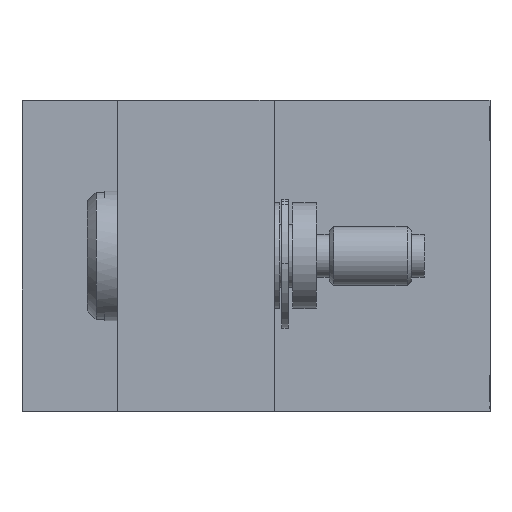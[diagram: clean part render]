
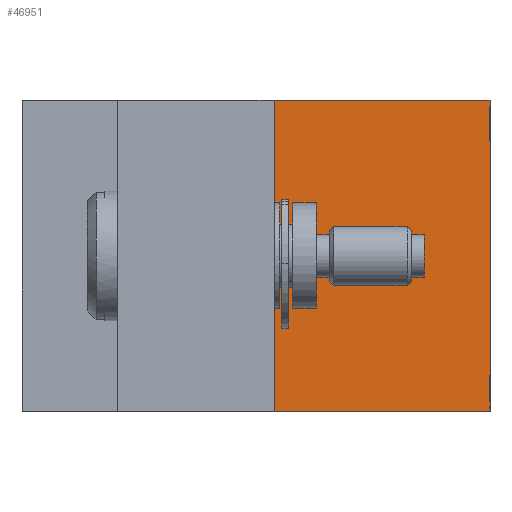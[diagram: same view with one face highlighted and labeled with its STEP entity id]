
A CAD part, left-side view. The second image highlights one B-rep face of the part: STEP entity #46951.
In plain terms, the highlighted planar face has unit normal (-1, 0, 0).
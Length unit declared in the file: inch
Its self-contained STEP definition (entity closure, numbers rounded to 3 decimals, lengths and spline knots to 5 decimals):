
#35626=CARTESIAN_POINT('',(0.4,-1.083,0.0));
#35627=VERTEX_POINT('',#35626);
#35634=CARTESIAN_POINT('',(0.4,-0.583,0.0));
#35635=VERTEX_POINT('',#35634);
#35636=CARTESIAN_POINT('',(0.4,-1.083,0.0));
#35637=DIRECTION('',(0.0,1.0,0.0));
#35638=VECTOR('',#35637,0.5);
#35639=LINE('',#35636,#35638);
#35640=EDGE_CURVE('',#35627,#35635,#35639,.T.);
#45517=CARTESIAN_POINT('',(0.4,-0.583,0.72));
#45518=VERTEX_POINT('',#45517);
#45525=CARTESIAN_POINT('',(0.4,-1.083,0.72));
#45526=VERTEX_POINT('',#45525);
#45527=CARTESIAN_POINT('',(0.4,-1.083,0.72));
#45528=DIRECTION('',(0.0,1.0,0.0));
#45529=VECTOR('',#45528,0.5);
#45530=LINE('',#45527,#45529);
#45531=EDGE_CURVE('',#45526,#45518,#45530,.T.);
#46905=CARTESIAN_POINT('',(0.4,-1.083,0.0));
#46906=DIRECTION('',(0.0,0.0,1.0));
#46907=VECTOR('',#46906,0.72);
#46908=LINE('',#46905,#46907);
#46909=EDGE_CURVE('',#35627,#45526,#46908,.T.);
#46935=CARTESIAN_POINT('',(0.4,-1.083,0.0));
#46936=DIRECTION('',(-1.0,0.0,0.0));
#46937=DIRECTION('',(0.0,0.0,1.0));
#46938=AXIS2_PLACEMENT_3D('',#46935,#46936,#46937);
#46939=PLANE('',#46938);
#46940=ORIENTED_EDGE('',*,*,#45531,.T.);
#46941=CARTESIAN_POINT('',(0.4,-0.583,0.0));
#46942=DIRECTION('',(0.0,0.0,1.0));
#46943=VECTOR('',#46942,0.72);
#46944=LINE('',#46941,#46943);
#46945=EDGE_CURVE('',#35635,#45518,#46944,.T.);
#46946=ORIENTED_EDGE('',*,*,#46945,.F.);
#46947=ORIENTED_EDGE('',*,*,#35640,.F.);
#46948=ORIENTED_EDGE('',*,*,#46909,.T.);
#46949=EDGE_LOOP('',(#46940,#46946,#46947,#46948));
#46950=FACE_OUTER_BOUND('',#46949,.T.);
#46951=ADVANCED_FACE('',(#46950),#46939,.T.);
